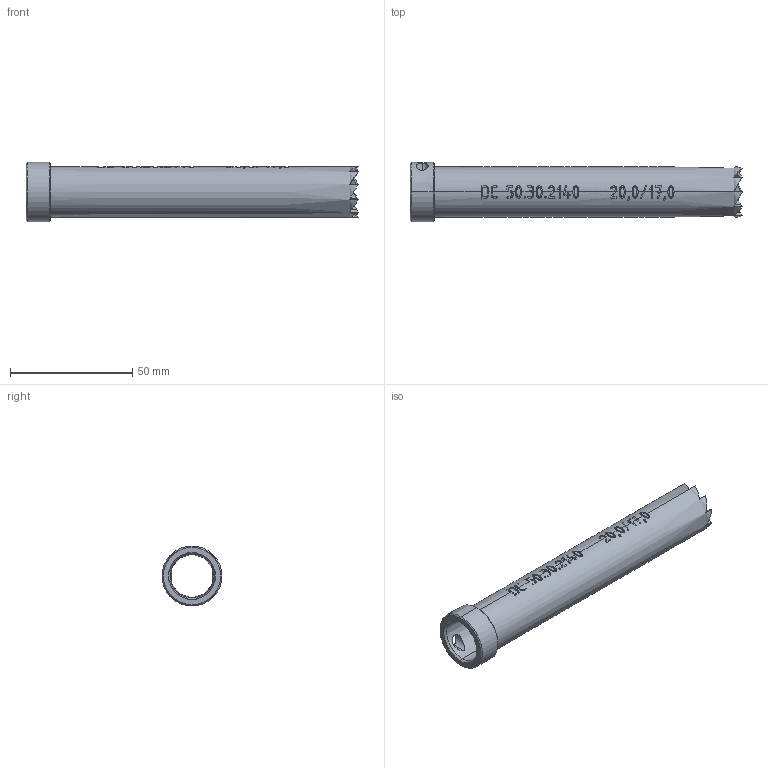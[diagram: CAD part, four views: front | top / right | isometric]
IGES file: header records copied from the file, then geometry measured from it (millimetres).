
Start section: SolidWorks IGES file using analytic representation for surfaces
Global section: file name: C:\Users\e.bondaruk\Desktop\縺 嚦闉鍙酀50.30.2140-00.01.IGS; native system: SolidWorks 2022; preprocessor: SolidWorks 2022; author: e.bondaruk; date: 230210.134210; units: millimetre
Bounding box: 135.98 x 24.5 x 24.5 mm (x, y, z)
Surface area: 16809.8 mm2 (no closed solid volume)
Topology: 0 solids, 0 shells, 362 faces, 6626 edges, 6626 vertices
Faces by surface type: bspline 318, revolution 44
